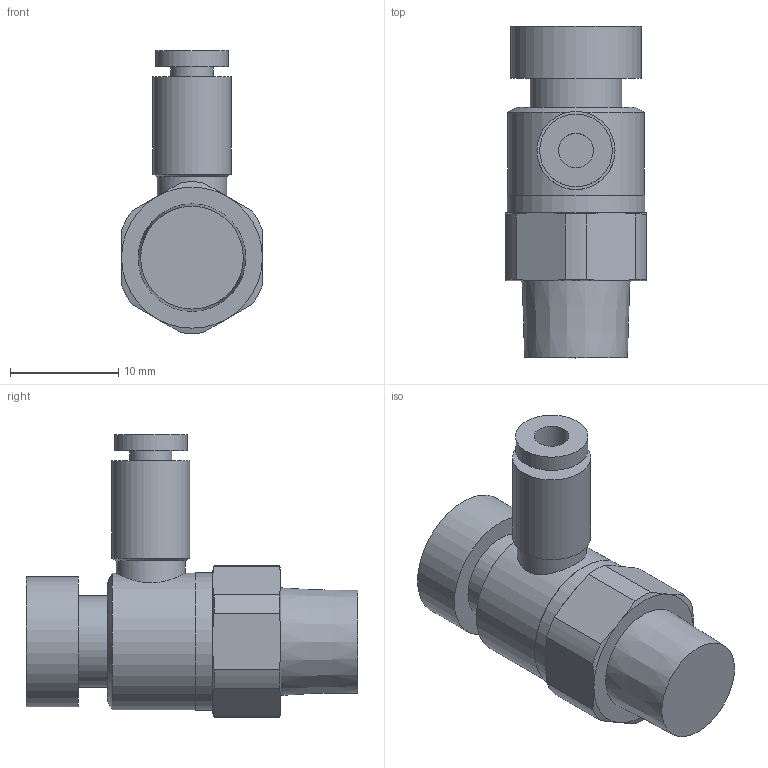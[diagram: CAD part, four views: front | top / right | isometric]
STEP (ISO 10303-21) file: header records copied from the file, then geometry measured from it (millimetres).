
FILE_DESCRIPTION(/* description */ ('STEP AP214'),/* implementation_level */ '2;1');
FILE_NAME(/* name */ 'AS2201F-01-23SA',/* time_stamp */ '2024-10-24T14:04:25+02:00',/* author */ ('License CC BY-ND 4.0'),/* organization */ ('CADENAS'),/* preprocessor_version */ 'ST-DEVELOPER v19.3',/* originating_system */ 'PARTsolutions',/* authorisation */ ' ');
FILE_SCHEMA (('AUTOMOTIVE_DESIGN {1 0 10303 214 3 1 1}'));
Length unit declared in the file: millimetre
Products named in the file (1): AS2201F-01-23SA
Bounding box: 13 x 30.6 x 26.09 mm (x, y, z)
Volume: 3703.2 mm3; surface area: 1976.9 mm2
Topology: 1 solids, 1 shells, 47 faces, 93 edges, 57 vertices
Faces by surface type: plane 17, cylinder 15, cone 15
Full cylindrical faces by diameter (mm): 3.2 x1, 3.9 x1, 6.4 x1, 6.7 x1, 7.2 x1, 8.45 x1, 12 x1, 12.6 x1, 12.7 x1
Entity records: 1221 total; most frequent: CARTESIAN_POINT 276, DIRECTION 196, ORIENTED_EDGE 162, AXIS2_PLACEMENT_3D 92, EDGE_CURVE 81, EDGE_LOOP 68, FACE_BOUND 68, VERTEX_POINT 57
